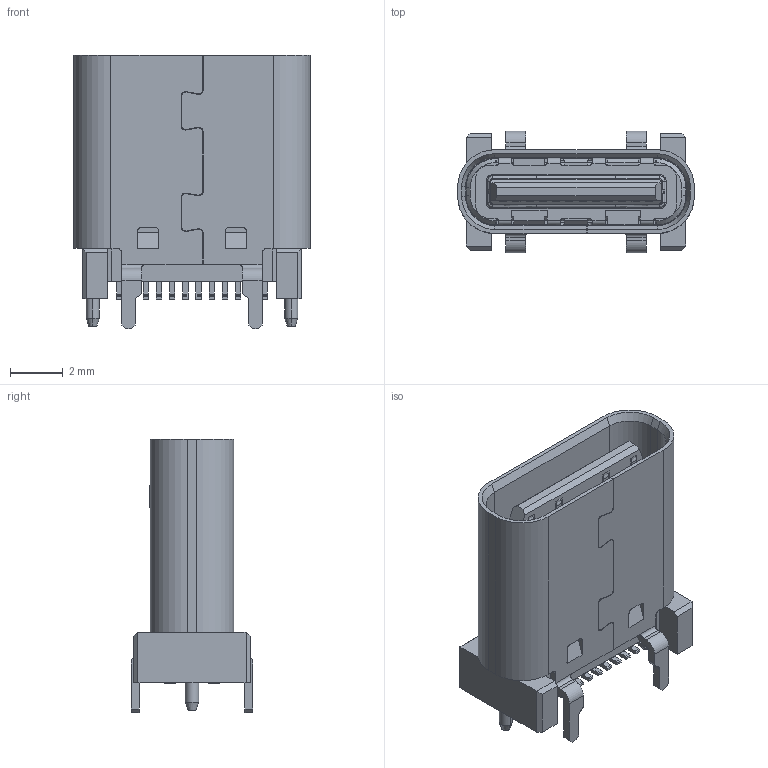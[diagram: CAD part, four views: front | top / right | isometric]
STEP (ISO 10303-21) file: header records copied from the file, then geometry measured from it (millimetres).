
FILE_DESCRIPTION (( 'STEP AP203' ), '1' );
FILE_NAME ('U5195-24PN9.3L.STEP', '2026-09-21T07:48:35', ( '' ), ( '' ), 'SwSTEP 2.0', 'SolidWorks 2024', '' );
FILE_SCHEMA (( 'CONFIG_CONTROL_DESIGN' ));
Length unit declared in the file: millimetre
Products named in the file (1): U5195-24PN9.3L
Bounding box: 8.94 x 4.6 x 10.35 mm (x, y, z)
Volume: 203.6 mm3; surface area: 1145 mm2
Topology: 30 solids, 30 shells, 2390 faces, 6927 edges, 4586 vertices
Faces by surface type: plane 1758, cylinder 565, bspline 29, cone 25, torus 13
Entity records: 80365 total; most frequent: CARTESIAN_POINT 17234, ORIENTED_EDGE 13854, DIRECTION 12168, EDGE_CURVE 6927, VECTOR 5390, LINE 5390, VERTEX_POINT 4586, AXIS2_PLACEMENT_3D 3389
